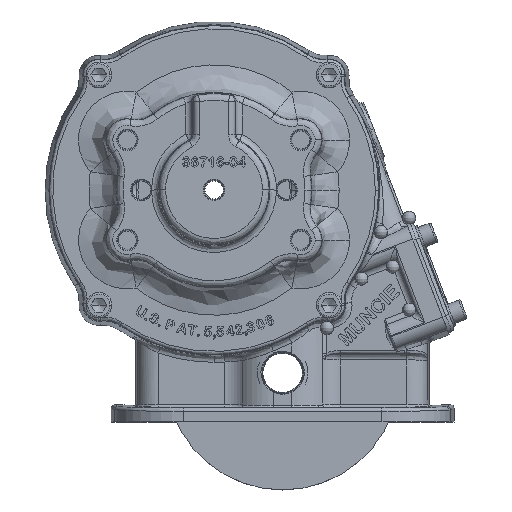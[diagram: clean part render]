
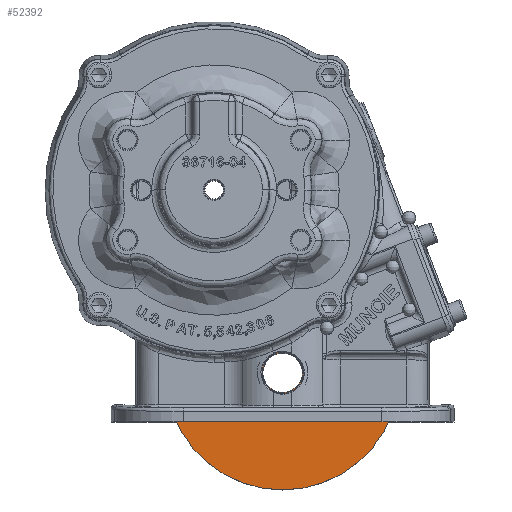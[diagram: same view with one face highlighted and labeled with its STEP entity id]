
A CAD part, top view. The second image highlights one B-rep face of the part: STEP entity #52392.
In plain terms, the highlighted planar face has unit normal (0, 0, 1).
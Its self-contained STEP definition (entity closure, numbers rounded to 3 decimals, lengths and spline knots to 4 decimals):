
#6458 = EDGE_LOOP ( 'NONE', ( #57337, #57338 ) ) ;
#6464 = EDGE_LOOP ( 'NONE', ( #57339, #57340 ) ) ;
#39964 = VERTEX_POINT ( 'NONE', #95001 ) ;
#39966 = VERTEX_POINT ( 'NONE', #95002 ) ;
#39995 = VERTEX_POINT ( 'NONE', #95030 ) ;
#39997 = VERTEX_POINT ( 'NONE', #95032 ) ;
#52392 = ADVANCED_FACE ( 'NONE', ( #112519, #112520 ), #112521, .F. ) ;
#57337 = ORIENTED_EDGE ( 'NONE', *, *, #131191, .T. ) ;
#57338 = ORIENTED_EDGE ( 'NONE', *, *, #131149, .T. ) ;
#57339 = ORIENTED_EDGE ( 'NONE', *, *, #131189, .F. ) ;
#57340 = ORIENTED_EDGE ( 'NONE', *, *, #131179, .F. ) ;
#79992 = CIRCLE ( 'NONE', #80008, 0.3595 ) ;
#80008 = AXIS2_PLACEMENT_3D ( 'NONE', #121402, #121404, #121406 ) ;
#80042 = CIRCLE ( 'NONE', #80050, 2.135 ) ;
#80050 = AXIS2_PLACEMENT_3D ( 'NONE', #121499, #121501, #121503 ) ;
#80057 = CIRCLE ( 'NONE', #80063, 2.135 ) ;
#80061 = CIRCLE ( 'NONE', #80068, 0.3595 ) ;
#80063 = AXIS2_PLACEMENT_3D ( 'NONE', #121528, #121530, #121532 ) ;
#80068 = AXIS2_PLACEMENT_3D ( 'NONE', #121536, #121538, #121540 ) ;
#95001 = CARTESIAN_POINT ( 'NONE',  ( 0.2973, -3.5995, 1.7223 ) ) ;
#95002 = CARTESIAN_POINT ( 'NONE',  ( 0.2973, 0.6705, 1.7223 ) ) ;
#95030 = CARTESIAN_POINT ( 'NONE',  ( 0.2973, -1.824, 1.7223 ) ) ;
#95032 = CARTESIAN_POINT ( 'NONE',  ( 0.2973, -1.105, 1.7223 ) ) ;
#111083 = AXIS2_PLACEMENT_3D ( 'NONE', #112507, #112523, #112524 ) ;
#112507 = CARTESIAN_POINT ( 'NONE',  ( 0.2973, -1.4645, 1.7223 ) ) ;
#112519 = FACE_BOUND ( 'NONE', #6458, .T. ) ;
#112520 = FACE_OUTER_BOUND ( 'NONE', #6464, .T. ) ;
#112521 = PLANE ( 'NONE',  #111083 ) ;
#112523 = DIRECTION ( 'NONE',  ( 0., 0., -1. ) ) ;
#112524 = DIRECTION ( 'NONE',  ( 0., 1., 0. ) ) ;
#121402 = CARTESIAN_POINT ( 'NONE',  ( 0.2973, -1.4645, 1.7223 ) ) ;
#121404 = DIRECTION ( 'NONE',  ( 0., 0., -1. ) ) ;
#121406 = DIRECTION ( 'NONE',  ( 0., 1., 0. ) ) ;
#121499 = CARTESIAN_POINT ( 'NONE',  ( 0.2973, -1.4645, 1.7223 ) ) ;
#121501 = DIRECTION ( 'NONE',  ( 0., 0., -1. ) ) ;
#121503 = DIRECTION ( 'NONE',  ( 0., 1., 0. ) ) ;
#121528 = CARTESIAN_POINT ( 'NONE',  ( 0.2973, -1.4645, 1.7223 ) ) ;
#121530 = DIRECTION ( 'NONE',  ( 0., 0., -1. ) ) ;
#121532 = DIRECTION ( 'NONE',  ( 0., 1., 0. ) ) ;
#121536 = CARTESIAN_POINT ( 'NONE',  ( 0.2973, -1.4645, 1.7223 ) ) ;
#121538 = DIRECTION ( 'NONE',  ( 0., 0., -1. ) ) ;
#121540 = DIRECTION ( 'NONE',  ( 0., 1., 0. ) ) ;
#131149 = EDGE_CURVE ( 'NONE', #39995, #39997, #79992, .T. ) ;
#131179 = EDGE_CURVE ( 'NONE', #39966, #39964, #80042, .T. ) ;
#131189 = EDGE_CURVE ( 'NONE', #39964, #39966, #80057, .T. ) ;
#131191 = EDGE_CURVE ( 'NONE', #39997, #39995, #80061, .T. ) ;
